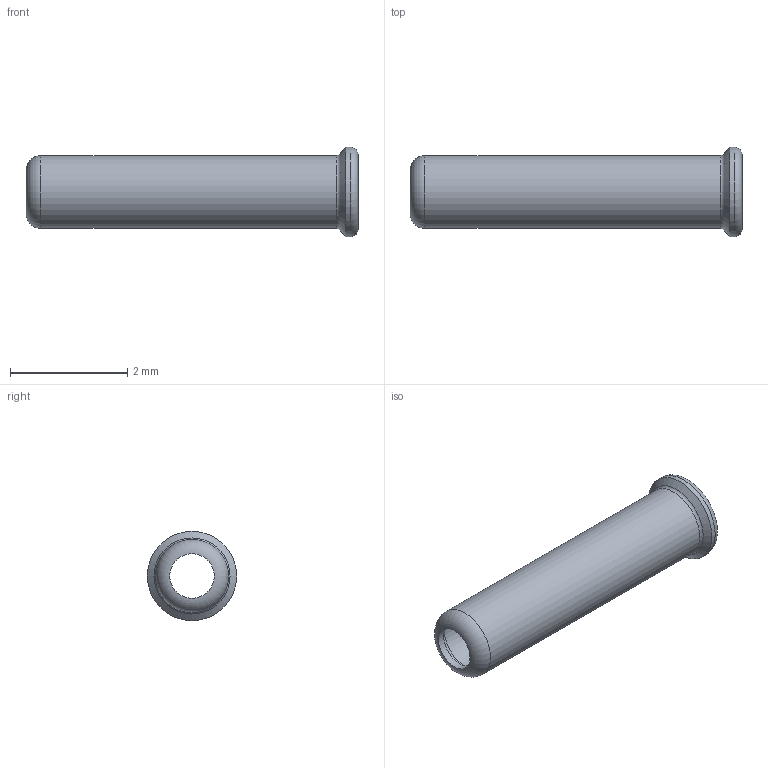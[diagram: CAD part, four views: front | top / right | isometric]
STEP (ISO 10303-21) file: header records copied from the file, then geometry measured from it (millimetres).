
FILE_DESCRIPTION(/* description */ (''),/* implementation_level */ '2;1');
FILE_NAME(/* name */ '\\Snap1\dwgs\Customer 3D Models\450\450-3772-02 Customer model.stp',/* time_stamp */ '2016-12-20T17:34:37+00:00',/* author */ ('paulk'),/* organization */ (''),/* preprocessor_version */ 'ST-DEVELOPER v15.2',/* originating_system */ 'Autodesk Inventor 2014',/* authorisation */ '');
FILE_SCHEMA (('CONFIG_CONTROL_DESIGN'));
Length unit declared in the file: millimetre
Products named in the file (1): 450-3772-02 Customer model
Bounding box: 5.67 x 1.52 x 1.52 mm (x, y, z)
Volume: 2.8 mm3; surface area: 41.1 mm2
Topology: 1 solids, 1 shells, 11 faces, 21 edges, 11 vertices
Faces by surface type: torus 5, cylinder 4, plane 1, cone 1
Full cylindrical faces by diameter (mm): 0.762 x1, 0.98 x1, 1.245 x1, 1.524 x1
Entity records: 249 total; most frequent: DIRECTION 46, CARTESIAN_POINT 34, AXIS2_PLACEMENT_3D 23, EDGE_LOOP 22, ORIENTED_EDGE 22, FACE_BOUND 11, FACE_OUTER_BOUND 11, CIRCLE 11
